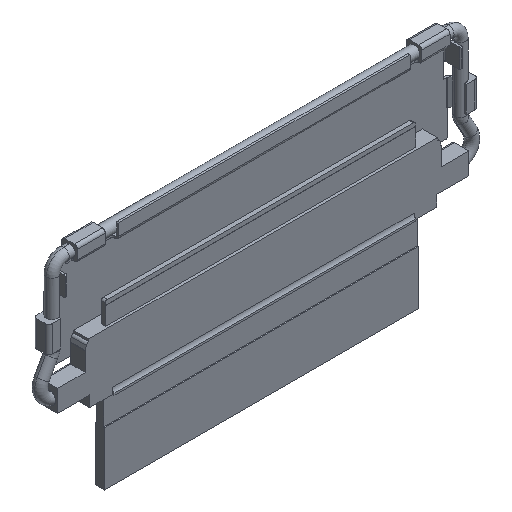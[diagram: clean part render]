
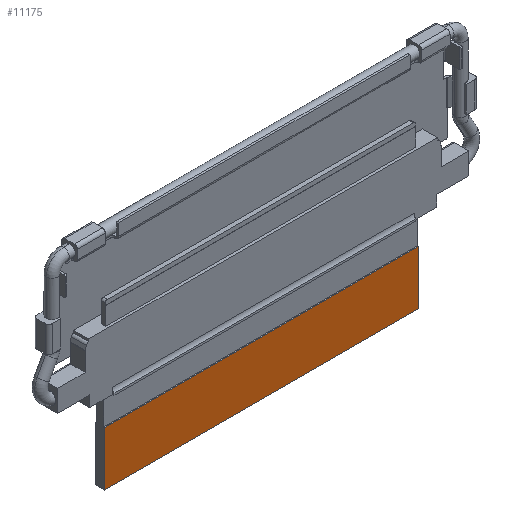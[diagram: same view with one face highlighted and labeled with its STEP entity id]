
A CAD part, isometric view. The second image highlights one B-rep face of the part: STEP entity #11175.
In plain terms, the highlighted planar face has unit normal (0, -1, 0).
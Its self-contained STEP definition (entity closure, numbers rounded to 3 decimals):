
#455 = ORIENTED_EDGE ( 'NONE', *, *, #10512, .F. ) ;
#684 = LINE ( 'NONE', #13619, #9477 ) ;
#689 = FACE_OUTER_BOUND ( 'NONE', #11853, .T. ) ;
#901 = VECTOR ( 'NONE', #4259, 1000. ) ;
#991 = EDGE_CURVE ( 'NONE', #14284, #11279, #10161, .T. ) ;
#1877 = EDGE_CURVE ( 'NONE', #5774, #10084, #4182, .T. ) ;
#1953 = PLANE ( 'NONE',  #7060 ) ;
#3410 = CARTESIAN_POINT ( 'NONE',  ( 7.75, 0., -4.637 ) ) ;
#3818 = VECTOR ( 'NONE', #14696, 1000. ) ;
#3918 = CARTESIAN_POINT ( 'NONE',  ( 0.55, 0., -7.297 ) ) ;
#4182 = LINE ( 'NONE', #3918, #3818 ) ;
#4259 = DIRECTION ( 'NONE',  ( 0., 0., 1. ) ) ;
#4339 = DIRECTION ( 'NONE',  ( 0., 1., 0. ) ) ;
#4418 = CARTESIAN_POINT ( 'NONE',  ( -7.75, 0., -4.637 ) ) ;
#4646 = DIRECTION ( 'NONE',  ( 1., 0., 0. ) ) ;
#5488 = ORIENTED_EDGE ( 'NONE', *, *, #6186, .F. ) ;
#5521 = CARTESIAN_POINT ( 'NONE',  ( -7.75, 0., -7.297 ) ) ;
#5774 = VERTEX_POINT ( 'NONE', #6891 ) ;
#6003 = ORIENTED_EDGE ( 'NONE', *, *, #1877, .F. ) ;
#6186 = EDGE_CURVE ( 'NONE', #11279, #5774, #684, .T. ) ;
#6684 = CARTESIAN_POINT ( 'NONE',  ( 8.85, 0., -4.637 ) ) ;
#6891 = CARTESIAN_POINT ( 'NONE',  ( 7.75, 0., -7.297 ) ) ;
#6986 = VECTOR ( 'NONE', #4646, 1000. ) ;
#7060 = AXIS2_PLACEMENT_3D ( 'NONE', #6684, #4339, #12738 ) ;
#8824 = DIRECTION ( 'NONE',  ( 0., 0., -1. ) ) ;
#9477 = VECTOR ( 'NONE', #8824, 1000. ) ;
#10084 = VERTEX_POINT ( 'NONE', #5521 ) ;
#10161 = LINE ( 'NONE', #15449, #6986 ) ;
#10439 = LINE ( 'NONE', #13854, #901 ) ;
#10512 = EDGE_CURVE ( 'NONE', #10084, #14284, #10439, .T. ) ;
#11175 = ADVANCED_FACE ( 'NONE', ( #689 ), #1953, .F. ) ;
#11279 = VERTEX_POINT ( 'NONE', #3410 ) ;
#11853 = EDGE_LOOP ( 'NONE', ( #6003, #5488, #12366, #455 ) ) ;
#12366 = ORIENTED_EDGE ( 'NONE', *, *, #991, .F. ) ;
#12738 = DIRECTION ( 'NONE',  ( 0., 0., -1. ) ) ;
#13619 = CARTESIAN_POINT ( 'NONE',  ( 7.75, 0., -5.967 ) ) ;
#13854 = CARTESIAN_POINT ( 'NONE',  ( -7.75, 0., -5.967 ) ) ;
#14284 = VERTEX_POINT ( 'NONE', #4418 ) ;
#14696 = DIRECTION ( 'NONE',  ( -1., 0., 0. ) ) ;
#15449 = CARTESIAN_POINT ( 'NONE',  ( 0.55, 0., -4.637 ) ) ;
